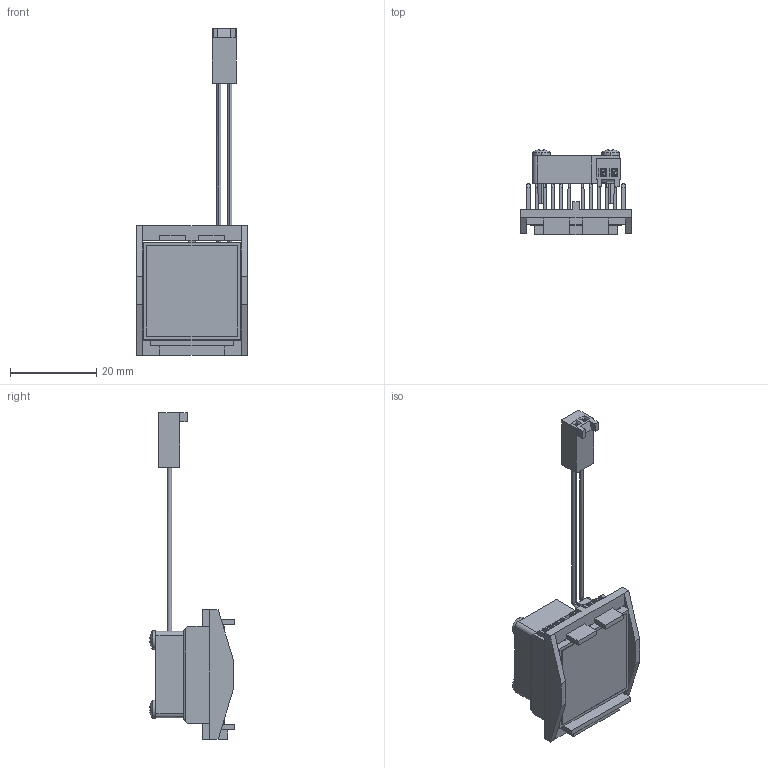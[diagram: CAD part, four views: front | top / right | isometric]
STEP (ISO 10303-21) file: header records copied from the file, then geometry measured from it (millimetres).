
FILE_DESCRIPTION (( 'STEP AP214' ), '1' );
FILE_NAME ('FJ23-1.7+Y.STEP', '2023-03-14T10:28:33', ( '' ), ( '' ), 'SwSTEP 2.0', 'SolidWorks 2020', '' );
FILE_SCHEMA (( 'AUTOMOTIVE_DESIGN' ));
Length unit declared in the file: millimetre
Products named in the file (1): FJ23-1.7+Y
Bounding box: 25.7 x 19.68 x 75.75 mm (x, y, z)
Volume: 5093 mm3; surface area: 11319.6 mm2
Topology: 10 solids, 10 shells, 405 faces, 1110 edges, 715 vertices
Faces by surface type: plane 246, cylinder 108, bspline 48, sphere 3
Entity records: 18818 total; most frequent: CARTESIAN_POINT 4469, ORIENTED_EDGE 2170, DIRECTION 1806, EDGE_CURVE 1085, VECTOR 736, LINE 736, VERTEX_POINT 712, AXIS2_PLACEMENT_3D 535
